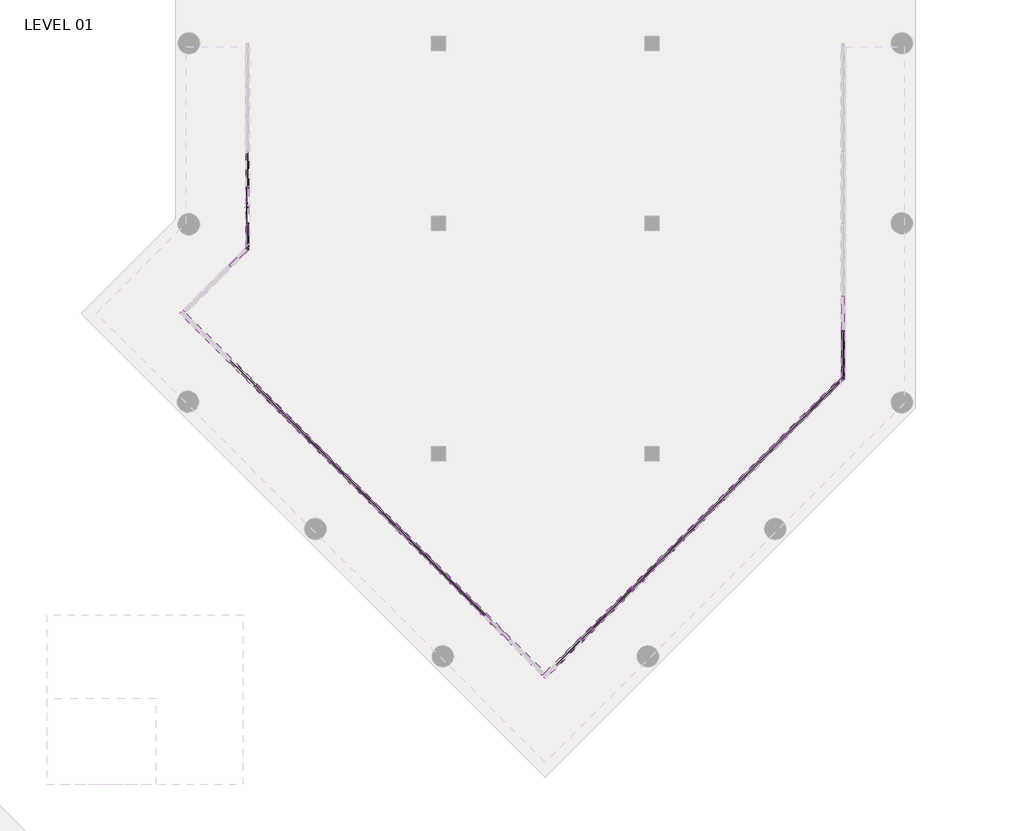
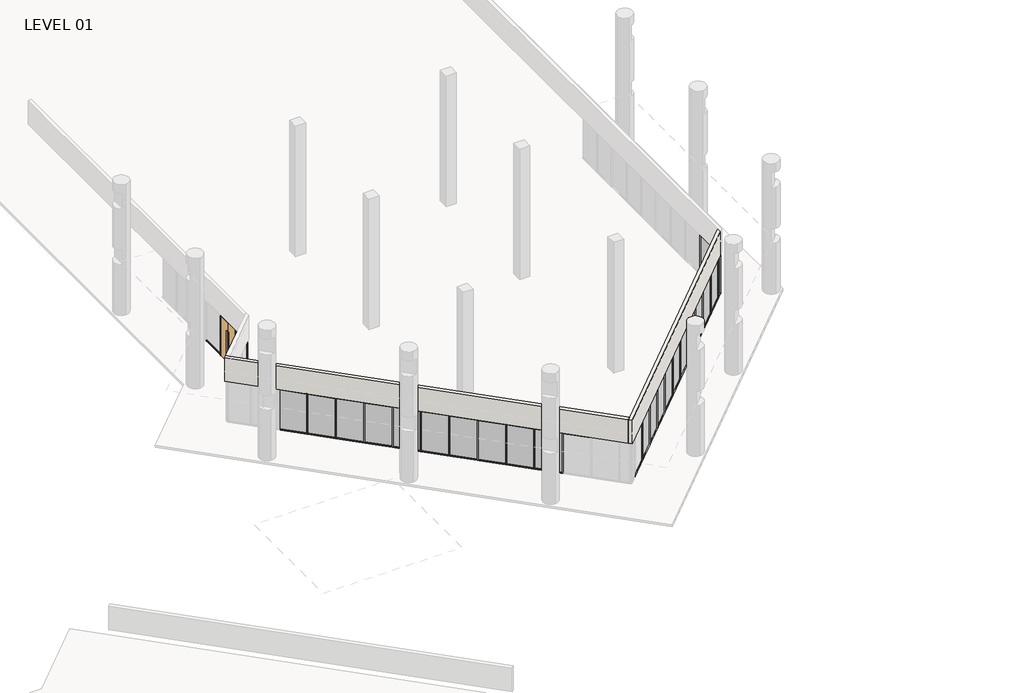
# One storey, part 9 of 24: 82 members, 24 plates, 2 walls, 1 door.
"""IFC4 building model written with IfcOpenShell, lengths in millimetres."""

from ifc_helpers import new_model, si_unit, origin, place, context, project, spatial, faceted_brep, transform, mapped, element, save
from components import curtain_wall_dbl_glass_curtain_wall_dbl_glass_dc526c47, member_16770488, member_ed5eb8ce, member_5247f267, member_e44af9ab, member_800970d4, member_1d3a199d, member_57f2eb73, plate_ce959b8d, plate_67294edd, plate_8062c6fe, plate_53ca565f, plate_87d7c655

model = new_model("IFC4")

# Units and contexts
model_context = context("Model", 3, world=origin())
ifc_project = project(units=[si_unit("LENGTHUNIT", "METRE", prefix="MILLI")], contexts=[model_context])

# Site, building, storey
site = spatial("IfcSite", under=ifc_project)
building = spatial("IfcBuilding", under=site)
storey = spatial("IfcBuildingStorey", under=building, Name="LEVEL 01", Elevation=0.0)

# Door
placement = place(None, origin())
curtain_wall_dbl_glass_curtain_wall_dbl_glass_shape = curtain_wall_dbl_glass_curtain_wall_dbl_glass_dc526c47(model_context)
element("IfcDoor", 1, ObjectType="Curtain Wall Dbl Glass : Curtain Wall Dbl Glass", at=placement, inside=storey, context=model_context, shape_type="MappedRepresentation", body=[
    mapped(curtain_wall_dbl_glass_curtain_wall_dbl_glass_shape, transform((64254.6347164, 46849.9675885, 0.0), x_axis=(0.0, 1.0, 0.0), y_axis=(-1.0, 0.0, 0.0), z_axis=(0.0, 0.0, 1.0))),
])

# Members
member_shape = member_16770488(model_context)
element("IfcMember", 2, ObjectType="Rectangular Mullion : 2\" x 4.5\" rectangular", at=placement, inside=storey, context=model_context, shape_type="MappedRepresentation", body=[
    mapped(member_shape, transform((89445.0847164, 39591.9120859, 2590.8), x_axis=(0.0, 0.0, 1.0), y_axis=(-1.0, 0.0, 0.0), z_axis=(0.0, -1.0, 0.0))),
])
member_2_shape = member_ed5eb8ce(model_context)
element("IfcMember", 3, ObjectType="Rectangular Mullion : 2\" x 4.5\" rectangular", at=placement, inside=storey, context=model_context, shape_type="MappedRepresentation", body=[
    mapped(member_2_shape, transform((64218.7136919, 44978.9020666, 2590.8), x_axis=(0.0, 0.0, 1.0), y_axis=(0.7071067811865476, -0.7071067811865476, 0.0), z_axis=(0.7071067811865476, 0.7071067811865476, 0.0))),
])
element("IfcMember", 4, ObjectType="Rectangular Mullion : 2\" x 4.5\" rectangular", at=placement, inside=storey, context=model_context, shape_type="MappedRepresentation", body=[
    mapped(member_2_shape, transform((64254.6347164, 46062.5675885, 2590.8), x_axis=(0.0, 0.0, 1.0), y_axis=(1.0, 0.0, 0.0), z_axis=(0.0, 1.0, 0.0))),
])
member_3_shape = member_5247f267(model_context)
element("IfcMember", 5, ObjectType="Rectangular Mullion : 2\" x 4.5\" rectangular", at=placement, inside=storey, context=model_context, shape_type="MappedRepresentation", body=[
    mapped(member_3_shape, transform((89445.0847164, 41541.3675885, 2590.8), x_axis=(0.0, 0.0, 1.0), y_axis=(-1.0, 0.0, 0.0), z_axis=(0.0, -1.0, 0.0))),
])
element("IfcMember", 6, ObjectType="Rectangular Mullion : 2\" x 4.5\" rectangular", at=placement, inside=storey, context=model_context, shape_type="MappedRepresentation", body=[
    mapped(member_3_shape, transform((86989.159449, 37085.1868185, 2590.8), x_axis=(0.0, 0.0, 1.0), y_axis=(-0.707106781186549, 0.7071067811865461, 0.0), z_axis=(-0.7071067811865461, -0.707106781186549, 0.0))),
])
element("IfcMember", 7, ObjectType="Rectangular Mullion : 2\" x 4.5\" rectangular", at=placement, inside=storey, context=model_context, shape_type="MappedRepresentation", body=[
    mapped(member_3_shape, transform((84833.8979799, 34929.9253495, 2590.8), x_axis=(0.0, 0.0, 1.0), y_axis=(-0.7071067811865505, 0.7071067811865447, 0.0), z_axis=(-0.7071067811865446, -0.7071067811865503, 0.0))),
])
element("IfcMember", 8, ObjectType="Rectangular Mullion : 2\" x 4.5\" rectangular", at=placement, inside=storey, context=model_context, shape_type="MappedRepresentation", body=[
    mapped(member_3_shape, transform((83756.2672454, 33852.2946149, 2590.8), x_axis=(0.0, 0.0, 1.0), y_axis=(-0.7071067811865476, 0.7071067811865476, 0.0), z_axis=(-0.7071067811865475, -0.7071067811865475, 0.0))),
])
element("IfcMember", 9, ObjectType="Rectangular Mullion : 2\" x 4.5\" rectangular", at=placement, inside=storey, context=model_context, shape_type="MappedRepresentation", body=[
    mapped(member_3_shape, transform((82678.6365109, 32774.6638804, 2590.8), x_axis=(0.0, 0.0, 1.0), y_axis=(-0.7071067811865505, 0.7071067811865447, 0.0), z_axis=(-0.7071067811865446, -0.7071067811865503, 0.0))),
])
element("IfcMember", 10, ObjectType="Rectangular Mullion : 2\" x 4.5\" rectangular", at=placement, inside=storey, context=model_context, shape_type="MappedRepresentation", body=[
    mapped(member_3_shape, transform((80523.3750418, 30619.4024113, 2590.8), x_axis=(0.0, 0.0, 1.0), y_axis=(-0.7071067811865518, 0.7071067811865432, 0.0), z_axis=(-0.7071067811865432, -0.7071067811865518, 0.0))),
])
element("IfcMember", 11, ObjectType="Rectangular Mullion : 2\" x 4.5\" rectangular", at=placement, inside=storey, context=model_context, shape_type="MappedRepresentation", body=[
    mapped(member_3_shape, transform((79445.7443073, 29541.7716768, 2590.8), x_axis=(0.0, 0.0, 1.0), y_axis=(-0.7071067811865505, 0.7071067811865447, 0.0), z_axis=(-0.7071067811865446, -0.7071067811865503, 0.0))),
])
element("IfcMember", 12, ObjectType="Rectangular Mullion : 2\" x 4.5\" rectangular", at=placement, inside=storey, context=model_context, shape_type="MappedRepresentation", body=[
    mapped(member_3_shape, transform((73212.0867428, 30583.6600595, 2590.8), x_axis=(0.0, 0.0, 1.0), y_axis=(0.7071067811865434, 0.7071067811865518, 0.0), z_axis=(-0.7071067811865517, 0.7071067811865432, 0.0))),
])
element("IfcMember", 13, ObjectType="Rectangular Mullion : 2\" x 4.5\" rectangular", at=placement, inside=storey, context=model_context, shape_type="MappedRepresentation", body=[
    mapped(member_3_shape, transform((71056.8252738, 32738.9215286, 2590.8), x_axis=(0.0, 0.0, 1.0), y_axis=(0.7071067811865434, 0.7071067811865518, 0.0), z_axis=(-0.7071067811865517, 0.7071067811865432, 0.0))),
])
element("IfcMember", 14, ObjectType="Rectangular Mullion : 2\" x 4.5\" rectangular", at=placement, inside=storey, context=model_context, shape_type="MappedRepresentation", body=[
    mapped(member_3_shape, transform((66746.6596809, 37049.0871214, 2590.8), x_axis=(0.0, 0.0, 1.0), y_axis=(0.7071067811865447, 0.7071067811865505, 0.0), z_axis=(-0.7071067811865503, 0.7071067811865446, 0.0))),
])
element("IfcMember", 15, ObjectType="Rectangular Mullion : 2\" x 4.5\" rectangular", at=placement, inside=storey, context=model_context, shape_type="MappedRepresentation", body=[
    mapped(member_3_shape, transform((64591.3982119, 39204.3485904, 2590.8), x_axis=(0.0, 0.0, 1.0), y_axis=(0.7071067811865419, 0.7071067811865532, 0.0), z_axis=(-0.7071067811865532, 0.7071067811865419, 0.0))),
])
element("IfcMember", 16, ObjectType="Rectangular Mullion : 2\" x 4.5\" rectangular", at=placement, inside=storey, context=model_context, shape_type="MappedRepresentation", body=[
    mapped(member_3_shape, transform((89445.0847164, 40017.3675885, 2590.8), x_axis=(0.0, 0.0, 1.0), y_axis=(-1.0, 0.0, 0.0), z_axis=(0.0, -1.0, 0.0))),
])
element("IfcMember", 17, ObjectType="Rectangular Mullion : 2\" x 4.5\" rectangular", at=placement, inside=storey, context=model_context, shape_type="MappedRepresentation", body=[
    mapped(member_3_shape, transform((78368.1135728, 28464.1409423, 2590.8), x_axis=(0.0, 0.0, 1.0), y_axis=(-0.7071067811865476, 0.7071067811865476, 0.0), z_axis=(-0.7071067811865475, -0.7071067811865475, 0.0))),
])
element("IfcMember", 18, ObjectType="Rectangular Mullion : 2\" x 4.5\" rectangular", at=placement, inside=storey, context=model_context, shape_type="MappedRepresentation", body=[
    mapped(member_3_shape, transform((81601.0057764, 31697.0331459, 2590.8), x_axis=(0.0, 0.0, 1.0), y_axis=(-0.707106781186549, 0.7071067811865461, 0.0), z_axis=(-0.7071067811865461, -0.707106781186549, 0.0))),
])
element("IfcMember", 19, ObjectType="Rectangular Mullion : 2\" x 4.5\" rectangular", at=placement, inside=storey, context=model_context, shape_type="MappedRepresentation", body=[
    mapped(member_3_shape, transform((85911.5287145, 36007.556084, 2590.8), x_axis=(0.0, 0.0, 1.0), y_axis=(-0.7071067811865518, 0.7071067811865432, 0.0), z_axis=(-0.7071067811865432, -0.7071067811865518, 0.0))),
])
element("IfcMember", 20, ObjectType="Rectangular Mullion : 2\" x 4.5\" rectangular", at=placement, inside=storey, context=model_context, shape_type="MappedRepresentation", body=[
    mapped(member_3_shape, transform((88066.7901835, 38162.817553, 2590.8), x_axis=(0.0, 0.0, 1.0), y_axis=(-0.7071067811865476, 0.7071067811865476, 0.0), z_axis=(-0.7071067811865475, -0.7071067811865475, 0.0))),
])
element("IfcMember", 21, ObjectType="Rectangular Mullion : 2\" x 4.5\" rectangular", at=placement, inside=storey, context=model_context, shape_type="MappedRepresentation", body=[
    mapped(member_3_shape, transform((74289.7174773, 29506.029325, 2590.8), x_axis=(0.0, 0.0, 1.0), y_axis=(0.7071067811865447, 0.7071067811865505, 0.0), z_axis=(-0.7071067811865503, 0.7071067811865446, 0.0))),
])
element("IfcMember", 22, ObjectType="Rectangular Mullion : 2\" x 4.5\" rectangular", at=placement, inside=storey, context=model_context, shape_type="MappedRepresentation", body=[
    mapped(member_3_shape, transform((72134.4560083, 31661.290794, 2590.8), x_axis=(0.0, 0.0, 1.0), y_axis=(0.7071067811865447, 0.7071067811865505, 0.0), z_axis=(-0.7071067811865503, 0.7071067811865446, 0.0))),
])
element("IfcMember", 23, ObjectType="Rectangular Mullion : 2\" x 4.5\" rectangular", at=placement, inside=storey, context=model_context, shape_type="MappedRepresentation", body=[
    mapped(member_3_shape, transform((69979.1945392, 33816.5522631, 2590.8), x_axis=(0.0, 0.0, 1.0), y_axis=(0.7071067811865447, 0.7071067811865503, 0.0), z_axis=(-0.7071067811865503, 0.7071067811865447, 0.0))),
])
element("IfcMember", 24, ObjectType="Rectangular Mullion : 2\" x 4.5\" rectangular", at=placement, inside=storey, context=model_context, shape_type="MappedRepresentation", body=[
    mapped(member_3_shape, transform((67824.2904155, 35971.4563869, 2590.8), x_axis=(0.0, 0.0, 1.0), y_axis=(0.7071067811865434, 0.7071067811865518, 0.0), z_axis=(-0.7071067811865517, 0.7071067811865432, 0.0))),
])
element("IfcMember", 25, ObjectType="Rectangular Mullion : 2\" x 4.5\" rectangular", at=placement, inside=storey, context=model_context, shape_type="MappedRepresentation", body=[
    mapped(member_3_shape, transform((65669.0289464, 38126.7178559, 2590.8), x_axis=(0.0, 0.0, 1.0), y_axis=(0.7071067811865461, 0.7071067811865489, 0.0), z_axis=(-0.7071067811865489, 0.7071067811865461, 0.0))),
])
element("IfcMember", 26, ObjectType="Rectangular Mullion : 2\" x 4.5\" rectangular", at=placement, inside=storey, context=model_context, shape_type="MappedRepresentation", body=[
    mapped(member_3_shape, transform((64254.6347164, 47586.5675885, 2590.8), x_axis=(0.0, 0.0, 1.0), y_axis=(1.0, 0.0, 0.0), z_axis=(0.0, 1.0, 0.0))),
])
element("IfcMember", 27, ObjectType="Rectangular Mullion : 2\" x 4.5\" rectangular", at=placement, inside=storey, context=model_context, shape_type="MappedRepresentation", body=[
    mapped(member_2_shape, transform((64254.6347164, 45065.6230911, 0.0), x_axis=(0.0, 0.0, -1.0), y_axis=(1.0, 0.0, 0.0), z_axis=(0.0, -1.0, 0.0))),
])
element("IfcMember", 28, ObjectType="Rectangular Mullion : 2\" x 4.5\" rectangular", at=placement, inside=storey, context=model_context, shape_type="MappedRepresentation", body=[
    mapped(member_3_shape, transform((89445.0847164, 41490.5675885, 0.0), x_axis=(0.0, 0.0, -1.0), y_axis=(-1.0, 0.0, 0.0), z_axis=(0.0, 1.0, 0.0))),
])
element("IfcMember", 29, ObjectType="Rectangular Mullion : 2\" x 4.5\" rectangular", at=placement, inside=storey, context=model_context, shape_type="MappedRepresentation", body=[
    mapped(member_3_shape, transform((86953.2384245, 37049.265794, 0.0), x_axis=(0.0, 0.0, -1.0), y_axis=(-0.7071067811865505, 0.7071067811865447, 0.0), z_axis=(0.7071067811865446, 0.7071067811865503, 0.0))),
])
element("IfcMember", 30, ObjectType="Rectangular Mullion : 2\" x 4.5\" rectangular", at=placement, inside=storey, context=model_context, shape_type="MappedRepresentation", body=[
    mapped(member_3_shape, transform((84797.9769555, 34894.004325, 0.0), x_axis=(0.0, 0.0, -1.0), y_axis=(-0.7071067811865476, 0.7071067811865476, 0.0), z_axis=(0.7071067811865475, 0.7071067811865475, 0.0))),
])
element("IfcMember", 31, ObjectType="Rectangular Mullion : 2\" x 4.5\" rectangular", at=placement, inside=storey, context=model_context, shape_type="MappedRepresentation", body=[
    mapped(member_3_shape, transform((83720.3462209, 33816.3735904, 0.0), x_axis=(0.0, 0.0, -1.0), y_axis=(-0.7071067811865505, 0.7071067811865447, 0.0), z_axis=(0.7071067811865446, 0.7071067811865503, 0.0))),
])
element("IfcMember", 32, ObjectType="Rectangular Mullion : 2\" x 4.5\" rectangular", at=placement, inside=storey, context=model_context, shape_type="MappedRepresentation", body=[
    mapped(member_3_shape, transform((82642.7154864, 32738.7428559, 0.0), x_axis=(0.0, 0.0, -1.0), y_axis=(-0.7071067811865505, 0.7071067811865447, 0.0), z_axis=(0.7071067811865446, 0.7071067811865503, 0.0))),
])
element("IfcMember", 33, ObjectType="Rectangular Mullion : 2\" x 4.5\" rectangular", at=placement, inside=storey, context=model_context, shape_type="MappedRepresentation", body=[
    mapped(member_3_shape, transform((80487.4540173, 30583.4813869, 0.0), x_axis=(0.0, 0.0, -1.0), y_axis=(-0.7071067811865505, 0.7071067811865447, 0.0), z_axis=(0.7071067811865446, 0.7071067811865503, 0.0))),
])
element("IfcMember", 34, ObjectType="Rectangular Mullion : 2\" x 4.5\" rectangular", at=placement, inside=storey, context=model_context, shape_type="MappedRepresentation", body=[
    mapped(member_3_shape, transform((79409.8232828, 29505.8506523, 0.0), x_axis=(0.0, 0.0, -1.0), y_axis=(-0.7071067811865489, 0.7071067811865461, 0.0), z_axis=(0.7071067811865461, 0.7071067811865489, 0.0))),
])
element("IfcMember", 35, ObjectType="Rectangular Mullion : 2\" x 4.5\" rectangular", at=placement, inside=storey, context=model_context, shape_type="MappedRepresentation", body=[
    mapped(member_3_shape, transform((73176.1657183, 30619.581084, 0.0), x_axis=(0.0, 0.0, -1.0), y_axis=(0.7071067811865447, 0.7071067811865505, 0.0), z_axis=(0.7071067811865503, -0.7071067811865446, 0.0))),
])
element("IfcMember", 36, ObjectType="Rectangular Mullion : 2\" x 4.5\" rectangular", at=placement, inside=storey, context=model_context, shape_type="MappedRepresentation", body=[
    mapped(member_3_shape, transform((71020.9042493, 32774.842553, 0.0), x_axis=(0.0, 0.0, -1.0), y_axis=(0.7071067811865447, 0.7071067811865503, 0.0), z_axis=(0.7071067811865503, -0.7071067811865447, 0.0))),
])
element("IfcMember", 37, ObjectType="Rectangular Mullion : 2\" x 4.5\" rectangular", at=placement, inside=storey, context=model_context, shape_type="MappedRepresentation", body=[
    mapped(member_3_shape, transform((68866.0001255, 34929.7466768, 0.0), x_axis=(0.0, 0.0, -1.0), y_axis=(0.7071067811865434, 0.7071067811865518, 0.0), z_axis=(0.7071067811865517, -0.7071067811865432, 0.0))),
])
element("IfcMember", 38, ObjectType="Rectangular Mullion : 2\" x 4.5\" rectangular", at=placement, inside=storey, context=model_context, shape_type="MappedRepresentation", body=[
    mapped(member_3_shape, transform((66710.7386564, 37085.0081459, 0.0), x_axis=(0.0, 0.0, -1.0), y_axis=(0.7071067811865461, 0.7071067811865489, 0.0), z_axis=(0.7071067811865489, -0.7071067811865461, 0.0))),
])
element("IfcMember", 39, ObjectType="Rectangular Mullion : 2\" x 4.5\" rectangular", at=placement, inside=storey, context=model_context, shape_type="MappedRepresentation", body=[
    mapped(member_3_shape, transform((64555.4771874, 39240.2696149, 0.0), x_axis=(0.0, 0.0, -1.0), y_axis=(0.7071067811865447, 0.7071067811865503, 0.0), z_axis=(0.7071067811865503, -0.7071067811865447, 0.0))),
])
element("IfcMember", 40, ObjectType="Rectangular Mullion : 2\" x 4.5\" rectangular", at=placement, inside=storey, context=model_context, shape_type="MappedRepresentation", body=[
    mapped(member_3_shape, transform((78332.1925483, 28428.2199178, 0.0), x_axis=(0.0, 0.0, -1.0), y_axis=(-0.707106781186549, 0.7071067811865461, 0.0), z_axis=(0.7071067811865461, 0.707106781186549, 0.0))),
])
element("IfcMember", 41, ObjectType="Rectangular Mullion : 2\" x 4.5\" rectangular", at=placement, inside=storey, context=model_context, shape_type="MappedRepresentation", body=[
    mapped(member_3_shape, transform((81565.0847519, 31661.1121214, 0.0), x_axis=(0.0, 0.0, -1.0), y_axis=(-0.7071067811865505, 0.7071067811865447, 0.0), z_axis=(0.7071067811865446, 0.7071067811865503, 0.0))),
])
element("IfcMember", 42, ObjectType="Rectangular Mullion : 2\" x 4.5\" rectangular", at=placement, inside=storey, context=model_context, shape_type="MappedRepresentation", body=[
    mapped(member_3_shape, transform((85875.60769, 35971.6350595, 0.0), x_axis=(0.0, 0.0, -1.0), y_axis=(-0.7071067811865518, 0.7071067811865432, 0.0), z_axis=(0.7071067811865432, 0.7071067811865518, 0.0))),
])
element("IfcMember", 43, ObjectType="Rectangular Mullion : 2\" x 4.5\" rectangular", at=placement, inside=storey, context=model_context, shape_type="MappedRepresentation", body=[
    mapped(member_3_shape, transform((88030.869159, 38126.8965286, 0.0), x_axis=(0.0, 0.0, -1.0), y_axis=(-0.707106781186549, 0.7071067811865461, 0.0), z_axis=(0.7071067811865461, 0.707106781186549, 0.0))),
])
element("IfcMember", 44, ObjectType="Rectangular Mullion : 2\" x 4.5\" rectangular", at=placement, inside=storey, context=model_context, shape_type="MappedRepresentation", body=[
    mapped(member_3_shape, transform((89108.4998936, 39204.5272631, 0.0), x_axis=(0.0, 0.0, -1.0), y_axis=(-0.7071067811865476, 0.7071067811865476, 0.0), z_axis=(0.7071067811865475, 0.7071067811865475, 0.0))),
])
element("IfcMember", 45, ObjectType="Rectangular Mullion : 2\" x 4.5\" rectangular", at=placement, inside=storey, context=model_context, shape_type="MappedRepresentation", body=[
    mapped(member_3_shape, transform((74253.7964529, 29541.9503495, 0.0), x_axis=(0.0, 0.0, -1.0), y_axis=(0.7071067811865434, 0.7071067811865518, 0.0), z_axis=(0.7071067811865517, -0.7071067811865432, 0.0))),
])
element("IfcMember", 46, ObjectType="Rectangular Mullion : 2\" x 4.5\" rectangular", at=placement, inside=storey, context=model_context, shape_type="MappedRepresentation", body=[
    mapped(member_3_shape, transform((72098.5349838, 31697.2118185, 0.0), x_axis=(0.0, 0.0, -1.0), y_axis=(0.7071067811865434, 0.7071067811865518, 0.0), z_axis=(0.7071067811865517, -0.7071067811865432, 0.0))),
])
element("IfcMember", 47, ObjectType="Rectangular Mullion : 2\" x 4.5\" rectangular", at=placement, inside=storey, context=model_context, shape_type="MappedRepresentation", body=[
    mapped(member_3_shape, transform((67788.369391, 36007.3774113, 0.0), x_axis=(0.0, 0.0, -1.0), y_axis=(0.7071067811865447, 0.7071067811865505, 0.0), z_axis=(0.7071067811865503, -0.7071067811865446, 0.0))),
])
element("IfcMember", 48, ObjectType="Rectangular Mullion : 2\" x 4.5\" rectangular", at=placement, inside=storey, context=model_context, shape_type="MappedRepresentation", body=[
    mapped(member_3_shape, transform((65633.1079219, 38162.6388804, 0.0), x_axis=(0.0, 0.0, -1.0), y_axis=(0.7071067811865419, 0.7071067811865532, 0.0), z_axis=(0.7071067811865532, -0.7071067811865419, 0.0))),
])
element("IfcMember", 49, ObjectType="Rectangular Mullion : 2\" x 4.5\" rectangular", at=placement, inside=storey, context=model_context, shape_type="MappedRepresentation", body=[
    mapped(member_3_shape, transform((64254.6347164, 47637.3675885, 0.0), x_axis=(0.0, 0.0, -1.0), y_axis=(1.0, 0.0, 0.0), z_axis=(0.0, -1.0, 0.0))),
])
member_4_shape = member_e44af9ab(model_context)
element("IfcMember", 50, ObjectType="Rectangular Mullion : 2\" x 4.5\" rectangular", at=placement, inside=storey, context=model_context, shape_type="MappedRepresentation", body=[
    mapped(member_4_shape, transform((89445.0847164, 41515.9675885, 0.0), x_axis=(0.0, -1.0, 0.0), y_axis=(-1.0, 0.0, 0.0), z_axis=(0.0, 0.0, -1.0))),
])
element("IfcMember", 51, ObjectType="Rectangular Mullion : 2\" x 4.5\" rectangular", at=placement, inside=storey, context=model_context, shape_type="MappedRepresentation", body=[
    mapped(member_4_shape, transform((86971.1989368, 37067.2263063, 0.0), x_axis=(-0.7071067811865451, -0.7071067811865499, 0.0), y_axis=(-0.7071067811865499, 0.7071067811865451, 0.0), z_axis=(0.0, 0.0, -1.0))),
])
element("IfcMember", 52, ObjectType="Rectangular Mullion : 2\" x 4.5\" rectangular", at=placement, inside=storey, context=model_context, shape_type="MappedRepresentation", body=[
    mapped(member_4_shape, transform((84815.9374677, 34911.9648372, 0.0), x_axis=(-0.7071067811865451, -0.7071067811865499, 0.0), y_axis=(-0.7071067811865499, 0.7071067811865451, 0.0), z_axis=(0.0, 0.0, -1.0))),
])
element("IfcMember", 53, ObjectType="Rectangular Mullion : 2\" x 4.5\" rectangular", at=placement, inside=storey, context=model_context, shape_type="MappedRepresentation", body=[
    mapped(member_4_shape, transform((83738.3067332, 33834.3341027, 0.0), x_axis=(-0.7071067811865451, -0.7071067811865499, 0.0), y_axis=(-0.7071067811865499, 0.7071067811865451, 0.0), z_axis=(0.0, 0.0, -1.0))),
])
element("IfcMember", 54, ObjectType="Rectangular Mullion : 2\" x 4.5\" rectangular", at=placement, inside=storey, context=model_context, shape_type="MappedRepresentation", body=[
    mapped(member_4_shape, transform((82660.6759986, 32756.7033682, 0.0), x_axis=(-0.7071067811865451, -0.7071067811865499, 0.0), y_axis=(-0.7071067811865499, 0.7071067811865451, 0.0), z_axis=(0.0, 0.0, -1.0))),
])
element("IfcMember", 55, ObjectType="Rectangular Mullion : 2\" x 4.5\" rectangular", at=placement, inside=storey, context=model_context, shape_type="MappedRepresentation", body=[
    mapped(member_4_shape, transform((80505.4145296, 30601.4418991, 0.0), x_axis=(-0.7071067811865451, -0.7071067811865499, 0.0), y_axis=(-0.7071067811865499, 0.7071067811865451, 0.0), z_axis=(0.0, 0.0, -1.0))),
])
element("IfcMember", 56, ObjectType="Rectangular Mullion : 2\" x 4.5\" rectangular", at=placement, inside=storey, context=model_context, shape_type="MappedRepresentation", body=[
    mapped(member_4_shape, transform((79427.7837951, 29523.8111646, 0.0), x_axis=(-0.7071067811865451, -0.7071067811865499, 0.0), y_axis=(-0.7071067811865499, 0.7071067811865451, 0.0), z_axis=(0.0, 0.0, -1.0))),
])
element("IfcMember", 57, ObjectType="Rectangular Mullion : 2\" x 4.5\" rectangular", at=placement, inside=storey, context=model_context, shape_type="MappedRepresentation", body=[
    mapped(member_4_shape, transform((73194.1262306, 30601.6205717, 0.0), x_axis=(-0.7071067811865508, 0.7071067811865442, 0.0), y_axis=(0.7071067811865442, 0.7071067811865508, 0.0), z_axis=(0.0, 0.0, -1.0))),
])
element("IfcMember", 58, ObjectType="Rectangular Mullion : 2\" x 4.5\" rectangular", at=placement, inside=storey, context=model_context, shape_type="MappedRepresentation", body=[
    mapped(member_4_shape, transform((71038.8647615, 32756.8820408, 0.0), x_axis=(-0.7071067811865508, 0.7071067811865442, 0.0), y_axis=(0.7071067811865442, 0.7071067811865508, 0.0), z_axis=(0.0, 0.0, -1.0))),
])
element("IfcMember", 59, ObjectType="Rectangular Mullion : 2\" x 4.5\" rectangular", at=placement, inside=storey, context=model_context, shape_type="MappedRepresentation", body=[
    mapped(member_4_shape, transform((68883.9606377, 34911.7861646, 0.0), x_axis=(-0.7071067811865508, 0.7071067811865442, 0.0), y_axis=(0.7071067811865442, 0.7071067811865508, 0.0), z_axis=(0.0, 0.0, -1.0))),
])
element("IfcMember", 60, ObjectType="Rectangular Mullion : 2\" x 4.5\" rectangular", at=placement, inside=storey, context=model_context, shape_type="MappedRepresentation", body=[
    mapped(member_4_shape, transform((66728.6991687, 37067.0476336, 0.0), x_axis=(-0.7071067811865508, 0.7071067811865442, 0.0), y_axis=(0.7071067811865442, 0.7071067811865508, 0.0), z_axis=(0.0, 0.0, -1.0))),
])
element("IfcMember", 61, ObjectType="Rectangular Mullion : 2\" x 4.5\" rectangular", at=placement, inside=storey, context=model_context, shape_type="MappedRepresentation", body=[
    mapped(member_4_shape, transform((64573.4376996, 39222.3091027, 0.0), x_axis=(-0.7071067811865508, 0.7071067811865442, 0.0), y_axis=(0.7071067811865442, 0.7071067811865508, 0.0), z_axis=(0.0, 0.0, -1.0))),
])
element("IfcMember", 62, ObjectType="Rectangular Mullion : 2\" x 4.5\" rectangular", at=placement, inside=storey, context=model_context, shape_type="MappedRepresentation", body=[
    mapped(member_4_shape, transform((89445.0847164, 39991.9675885, 0.0), x_axis=(0.0, -1.0, 0.0), y_axis=(-1.0, 0.0, 0.0), z_axis=(0.0, 0.0, -1.0))),
])
element("IfcMember", 63, ObjectType="Rectangular Mullion : 2\" x 4.5\" rectangular", at=placement, inside=storey, context=model_context, shape_type="MappedRepresentation", body=[
    mapped(member_4_shape, transform((78350.1530605, 28446.18043, 0.0), x_axis=(-0.7071067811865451, -0.7071067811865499, 0.0), y_axis=(-0.7071067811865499, 0.7071067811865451, 0.0), z_axis=(0.0, 0.0, -1.0))),
])
element("IfcMember", 64, ObjectType="Rectangular Mullion : 2\" x 4.5\" rectangular", at=placement, inside=storey, context=model_context, shape_type="MappedRepresentation", body=[
    mapped(member_4_shape, transform((81583.0452641, 31679.0726336, 0.0), x_axis=(-0.7071067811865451, -0.7071067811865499, 0.0), y_axis=(-0.7071067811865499, 0.7071067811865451, 0.0), z_axis=(0.0, 0.0, -1.0))),
])
element("IfcMember", 65, ObjectType="Rectangular Mullion : 2\" x 4.5\" rectangular", at=placement, inside=storey, context=model_context, shape_type="MappedRepresentation", body=[
    mapped(member_4_shape, transform((85893.5682022, 35989.5955717, 0.0), x_axis=(-0.7071067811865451, -0.7071067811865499, 0.0), y_axis=(-0.7071067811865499, 0.7071067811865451, 0.0), z_axis=(0.0, 0.0, -1.0))),
])
element("IfcMember", 66, ObjectType="Rectangular Mullion : 2\" x 4.5\" rectangular", at=placement, inside=storey, context=model_context, shape_type="MappedRepresentation", body=[
    mapped(member_4_shape, transform((88048.8296713, 38144.8570408, 0.0), x_axis=(-0.7071067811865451, -0.7071067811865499, 0.0), y_axis=(-0.7071067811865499, 0.7071067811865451, 0.0), z_axis=(0.0, 0.0, -1.0))),
])
element("IfcMember", 67, ObjectType="Rectangular Mullion : 2\" x 4.5\" rectangular", at=placement, inside=storey, context=model_context, shape_type="MappedRepresentation", body=[
    mapped(member_4_shape, transform((89126.4604058, 39222.4877753, 0.0), x_axis=(-0.7071067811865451, -0.7071067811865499, 0.0), y_axis=(-0.7071067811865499, 0.7071067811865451, 0.0), z_axis=(0.0, 0.0, -1.0))),
])
element("IfcMember", 68, ObjectType="Rectangular Mullion : 2\" x 4.5\" rectangular", at=placement, inside=storey, context=model_context, shape_type="MappedRepresentation", body=[
    mapped(member_4_shape, transform((74271.7569651, 29523.9898372, 0.0), x_axis=(-0.7071067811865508, 0.7071067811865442, 0.0), y_axis=(0.7071067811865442, 0.7071067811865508, 0.0), z_axis=(0.0, 0.0, -1.0))),
])
element("IfcMember", 69, ObjectType="Rectangular Mullion : 2\" x 4.5\" rectangular", at=placement, inside=storey, context=model_context, shape_type="MappedRepresentation", body=[
    mapped(member_4_shape, transform((72116.495496, 31679.2513063, 0.0), x_axis=(-0.7071067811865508, 0.7071067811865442, 0.0), y_axis=(0.7071067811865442, 0.7071067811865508, 0.0), z_axis=(0.0, 0.0, -1.0))),
])
element("IfcMember", 70, ObjectType="Rectangular Mullion : 2\" x 4.5\" rectangular", at=placement, inside=storey, context=model_context, shape_type="MappedRepresentation", body=[
    mapped(member_4_shape, transform((69961.234027, 33834.5127753, 0.0), x_axis=(-0.7071067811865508, 0.7071067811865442, 0.0), y_axis=(0.7071067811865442, 0.7071067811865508, 0.0), z_axis=(0.0, 0.0, -1.0))),
])
element("IfcMember", 71, ObjectType="Rectangular Mullion : 2\" x 4.5\" rectangular", at=placement, inside=storey, context=model_context, shape_type="MappedRepresentation", body=[
    mapped(member_4_shape, transform((67806.3299032, 35989.4168991, 0.0), x_axis=(-0.7071067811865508, 0.7071067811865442, 0.0), y_axis=(0.7071067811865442, 0.7071067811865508, 0.0), z_axis=(0.0, 0.0, -1.0))),
])
element("IfcMember", 72, ObjectType="Rectangular Mullion : 2\" x 4.5\" rectangular", at=placement, inside=storey, context=model_context, shape_type="MappedRepresentation", body=[
    mapped(member_4_shape, transform((65651.0684342, 38144.6783682, 0.0), x_axis=(-0.7071067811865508, 0.7071067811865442, 0.0), y_axis=(0.7071067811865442, 0.7071067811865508, 0.0), z_axis=(0.0, 0.0, -1.0))),
])
element("IfcMember", 73, ObjectType="Rectangular Mullion : 2\" x 4.5\" rectangular", at=placement, inside=storey, context=model_context, shape_type="MappedRepresentation", body=[
    mapped(member_4_shape, transform((64254.6347164, 46087.9675885, 0.0), x_axis=(0.0, 1.0, 0.0), y_axis=(1.0, 0.0, 0.0), z_axis=(0.0, 0.0, -1.0))),
])
element("IfcMember", 74, ObjectType="Rectangular Mullion : 2\" x 4.5\" rectangular", at=placement, inside=storey, context=model_context, shape_type="MappedRepresentation", body=[
    mapped(member_4_shape, transform((64254.6347164, 47611.9675885, 0.0), x_axis=(0.0, 1.0, 0.0), y_axis=(1.0, 0.0, 0.0), z_axis=(0.0, 0.0, -1.0))),
])
element("IfcMember", 75, ObjectType="Rectangular Mullion : 2\" x 4.5\" rectangular", at=placement, inside=storey, context=model_context, shape_type="MappedRepresentation", body=[
    mapped(member_shape, transform((89445.0847164, 39966.5675885, 0.0), x_axis=(0.0, 0.0, -1.0), y_axis=(-1.0, 0.0, 0.0), z_axis=(0.0, 1.0, 0.0))),
])
member_5_shape = member_800970d4(model_context)
element("IfcMember", 76, ObjectType="Rectangular Mullion : 2\" x 4.5\" rectangular", at=placement, inside=storey, context=model_context, shape_type="MappedRepresentation", body=[
    mapped(member_5_shape, transform((89445.0847164, 39541.1120859, 0.0), x_axis=(0.0, -1.0, 0.0), y_axis=(-1.0, 0.0, 0.0), z_axis=(0.0, 0.0, -1.0))),
])
element("IfcMember", 77, ObjectType="Rectangular Mullion : 2\" x 4.5\" rectangular", at=placement, inside=storey, context=model_context, shape_type="MappedRepresentation", body=[
    mapped(member_5_shape, transform((64254.6347164, 45014.8230911, 0.0), x_axis=(0.7071067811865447, 0.7071067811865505, 0.0), y_axis=(0.7071067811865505, -0.7071067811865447, 0.0), z_axis=(0.0, 0.0, -1.0))),
])
element("IfcMember", 78, ObjectType="Rectangular Mullion : 2\" x 4.5\" rectangular", at=placement, inside=storey, context=model_context, shape_type="MappedRepresentation", body=[
    mapped(member_5_shape, transform((89445.0847164, 39541.1120859, 2590.8), x_axis=(0.7071067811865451, 0.7071067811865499, 0.0), y_axis=(-0.7071067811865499, 0.7071067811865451, 0.0), z_axis=(0.0, 0.0, 1.0))),
])
element("IfcMember", 79, ObjectType="Rectangular Mullion : 2\" x 4.5\" rectangular", at=placement, inside=storey, context=model_context, shape_type="MappedRepresentation", body=[
    mapped(member_5_shape, transform((64254.6347164, 45014.8230911, 2590.8), x_axis=(0.0, -1.0, 0.0), y_axis=(1.0, 0.0, 0.0), z_axis=(0.0, 0.0, 1.0))),
])
member_6_shape = member_1d3a199d(model_context)
element("IfcMember", 80, ObjectType="Rectangular Mullion : 2\" x 4.5\" rectangular", at=placement, inside=storey, context=model_context, shape_type="MappedRepresentation", body=[
    mapped(member_6_shape, transform((89409.1636919, 39505.1910614, 0.0), x_axis=(0.0, 0.0, -1.0), y_axis=(-0.7071067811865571, 0.7071067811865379, 0.0), z_axis=(0.7071067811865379, 0.7071067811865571, 0.0))),
])
element("IfcMember", 81, ObjectType="Rectangular Mullion : 2\" x 4.5\" rectangular", at=placement, inside=storey, context=model_context, shape_type="MappedRepresentation", body=[
    mapped(member_6_shape, transform((89144.4209181, 39240.4482876, 2590.8), x_axis=(0.0, 0.0, 1.0), y_axis=(-0.7071067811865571, 0.7071067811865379, 0.0), z_axis=(-0.7071067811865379, -0.7071067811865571, 0.0))),
])
member_7_shape = member_57f2eb73(model_context)
element("IfcMember", 82, ObjectType="Rectangular Mullion : 2\" x 4.5\" rectangular", at=placement, inside=storey, context=model_context, shape_type="MappedRepresentation", body=[
    mapped(member_7_shape, transform((68901.92115, 34893.8256523, 2590.8), x_axis=(0.0, 0.0, 1.0), y_axis=(0.7071067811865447, 0.7071067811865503, 0.0), z_axis=(-0.7071067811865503, 0.7071067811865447, 0.0))),
])
element("IfcMember", 83, ObjectType="Rectangular Mullion : 2\" x 4.5\" rectangular", at=placement, inside=storey, context=model_context, shape_type="MappedRepresentation", body=[
    mapped(member_7_shape, transform((69943.2735147, 33852.4732876, 0.0), x_axis=(0.0, 0.0, -1.0), y_axis=(0.7071067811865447, 0.7071067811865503, 0.0), z_axis=(0.7071067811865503, -0.7071067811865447, 0.0))),
])

# Plates
plate_shape = plate_ce959b8d(model_context)
element("IfcPlate", 84, ObjectType="System Panel : 1/4\" Glass", at=placement, inside=storey, context=model_context, shape_type="MappedRepresentation", body=[
    mapped(plate_shape, transform((64254.6347164, 45564.0953398, 50.8), x_axis=(0.0, 1.0, 0.0), y_axis=(-1.0, 0.0, 0.0), z_axis=(0.0, 0.0, 1.0))),
])
plate_2_shape = plate_67294edd(model_context)
element("IfcPlate", 85, ObjectType="System Panel : 1/4\" Glass", at=placement, inside=storey, context=model_context, shape_type="MappedRepresentation", body=[
    mapped(plate_2_shape, transform((89445.0847164, 40753.9675885, 50.8), x_axis=(0.0, -1.0, 0.0), y_axis=(1.0, 0.0, 0.0), z_axis=(0.0, 0.0, 1.0))),
])
element("IfcPlate", 86, ObjectType="System Panel : 1/4\" Glass", at=placement, inside=storey, context=model_context, shape_type="MappedRepresentation", body=[
    mapped(plate_2_shape, transform((86432.3835695, 36528.410939, 50.8), x_axis=(-0.7071067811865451, -0.7071067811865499, 0.0), y_axis=(0.7071067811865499, -0.7071067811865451, 0.0), z_axis=(0.0, 0.0, 1.0))),
])
element("IfcPlate", 87, ObjectType="System Panel : 1/4\" Glass", at=placement, inside=storey, context=model_context, shape_type="MappedRepresentation", body=[
    mapped(plate_2_shape, transform((84277.1221004, 34373.14947, 50.8), x_axis=(-0.7071067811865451, -0.7071067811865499, 0.0), y_axis=(0.7071067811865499, -0.7071067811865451, 0.0), z_axis=(0.0, 0.0, 1.0))),
])
element("IfcPlate", 88, ObjectType="System Panel : 1/4\" Glass", at=placement, inside=storey, context=model_context, shape_type="MappedRepresentation", body=[
    mapped(plate_2_shape, transform((83199.4913659, 33295.5187354, 50.8), x_axis=(-0.7071067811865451, -0.7071067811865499, 0.0), y_axis=(0.7071067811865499, -0.7071067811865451, 0.0), z_axis=(0.0, 0.0, 1.0))),
])
element("IfcPlate", 89, ObjectType="System Panel : 1/4\" Glass", at=placement, inside=storey, context=model_context, shape_type="MappedRepresentation", body=[
    mapped(plate_2_shape, transform((82121.8606314, 32217.8880009, 50.8), x_axis=(-0.7071067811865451, -0.7071067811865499, 0.0), y_axis=(0.7071067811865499, -0.7071067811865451, 0.0), z_axis=(0.0, 0.0, 1.0))),
])
element("IfcPlate", 90, ObjectType="System Panel : 1/4\" Glass", at=placement, inside=storey, context=model_context, shape_type="MappedRepresentation", body=[
    mapped(plate_2_shape, transform((79966.5991623, 30062.6265318, 50.8), x_axis=(-0.7071067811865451, -0.7071067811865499, 0.0), y_axis=(0.7071067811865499, -0.7071067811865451, 0.0), z_axis=(0.0, 0.0, 1.0))),
])
element("IfcPlate", 91, ObjectType="System Panel : 1/4\" Glass", at=placement, inside=storey, context=model_context, shape_type="MappedRepresentation", body=[
    mapped(plate_2_shape, transform((78888.9684278, 28984.9957973, 50.8), x_axis=(-0.7071067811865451, -0.7071067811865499, 0.0), y_axis=(0.7071067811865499, -0.7071067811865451, 0.0), z_axis=(0.0, 0.0, 1.0))),
])
element("IfcPlate", 92, ObjectType="System Panel : 1/4\" Glass", at=placement, inside=storey, context=model_context, shape_type="MappedRepresentation", body=[
    mapped(plate_2_shape, transform((72655.3108633, 31140.435939, 50.8), x_axis=(-0.7071067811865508, 0.7071067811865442, 0.0), y_axis=(-0.7071067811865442, -0.7071067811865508, 0.0), z_axis=(0.0, 0.0, 1.0))),
])
element("IfcPlate", 93, ObjectType="System Panel : 1/4\" Glass", at=placement, inside=storey, context=model_context, shape_type="MappedRepresentation", body=[
    mapped(plate_2_shape, transform((70500.0493943, 33295.6974081, 50.8), x_axis=(-0.7071067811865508, 0.7071067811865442, 0.0), y_axis=(-0.7071067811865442, -0.7071067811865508, 0.0), z_axis=(0.0, 0.0, 1.0))),
])
element("IfcPlate", 94, ObjectType="System Panel : 1/4\" Glass", at=placement, inside=storey, context=model_context, shape_type="MappedRepresentation", body=[
    mapped(plate_2_shape, transform((68345.1452705, 35450.6015318, 50.8), x_axis=(-0.7071067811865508, 0.7071067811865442, 0.0), y_axis=(-0.7071067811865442, -0.7071067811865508, 0.0), z_axis=(0.0, 0.0, 1.0))),
])
element("IfcPlate", 95, ObjectType="System Panel : 1/4\" Glass", at=placement, inside=storey, context=model_context, shape_type="MappedRepresentation", body=[
    mapped(plate_2_shape, transform((66189.8838014, 37605.8630009, 50.8), x_axis=(-0.7071067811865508, 0.7071067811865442, 0.0), y_axis=(-0.7071067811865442, -0.7071067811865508, 0.0), z_axis=(0.0, 0.0, 1.0))),
])
element("IfcPlate", 96, ObjectType="System Panel : 1/4\" Glass", at=placement, inside=storey, context=model_context, shape_type="MappedRepresentation", body=[
    mapped(plate_2_shape, transform((64034.6223324, 39761.12447, 50.8), x_axis=(-0.7071067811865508, 0.7071067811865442, 0.0), y_axis=(-0.7071067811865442, -0.7071067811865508, 0.0), z_axis=(0.0, 0.0, 1.0))),
])
element("IfcPlate", 97, ObjectType="System Panel : 1/4\" Glass", at=placement, inside=storey, context=model_context, shape_type="MappedRepresentation", body=[
    mapped(plate_2_shape, transform((81044.2298969, 31140.2572664, 50.8), x_axis=(-0.7071067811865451, -0.7071067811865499, 0.0), y_axis=(0.7071067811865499, -0.7071067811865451, 0.0), z_axis=(0.0, 0.0, 1.0))),
])
element("IfcPlate", 98, ObjectType="System Panel : 1/4\" Glass", at=placement, inside=storey, context=model_context, shape_type="MappedRepresentation", body=[
    mapped(plate_2_shape, transform((85354.752835, 35450.7802045, 50.8), x_axis=(-0.7071067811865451, -0.7071067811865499, 0.0), y_axis=(0.7071067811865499, -0.7071067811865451, 0.0), z_axis=(0.0, 0.0, 1.0))),
])
element("IfcPlate", 99, ObjectType="System Panel : 1/4\" Glass", at=placement, inside=storey, context=model_context, shape_type="MappedRepresentation", body=[
    mapped(plate_2_shape, transform((87510.014304, 37606.0416735, 50.8), x_axis=(-0.7071067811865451, -0.7071067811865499, 0.0), y_axis=(0.7071067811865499, -0.7071067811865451, 0.0), z_axis=(0.0, 0.0, 1.0))),
])
element("IfcPlate", 100, ObjectType="System Panel : 1/4\" Glass", at=placement, inside=storey, context=model_context, shape_type="MappedRepresentation", body=[
    mapped(plate_2_shape, transform((88587.6450386, 38683.6724081, 50.8), x_axis=(-0.7071067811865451, -0.7071067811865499, 0.0), y_axis=(0.7071067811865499, -0.7071067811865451, 0.0), z_axis=(0.0, 0.0, 1.0))),
])
element("IfcPlate", 101, ObjectType="System Panel : 1/4\" Glass", at=placement, inside=storey, context=model_context, shape_type="MappedRepresentation", body=[
    mapped(plate_2_shape, transform((73732.9415978, 30062.8052045, 50.8), x_axis=(-0.7071067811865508, 0.7071067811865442, 0.0), y_axis=(-0.7071067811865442, -0.7071067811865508, 0.0), z_axis=(0.0, 0.0, 1.0))),
])
element("IfcPlate", 102, ObjectType="System Panel : 1/4\" Glass", at=placement, inside=storey, context=model_context, shape_type="MappedRepresentation", body=[
    mapped(plate_2_shape, transform((71577.6801288, 32218.0666735, 50.8), x_axis=(-0.7071067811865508, 0.7071067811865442, 0.0), y_axis=(-0.7071067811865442, -0.7071067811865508, 0.0), z_axis=(0.0, 0.0, 1.0))),
])
element("IfcPlate", 103, ObjectType="System Panel : 1/4\" Glass", at=placement, inside=storey, context=model_context, shape_type="MappedRepresentation", body=[
    mapped(plate_2_shape, transform((67267.5145359, 36528.2322664, 50.8), x_axis=(-0.7071067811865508, 0.7071067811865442, 0.0), y_axis=(-0.7071067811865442, -0.7071067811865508, 0.0), z_axis=(0.0, 0.0, 1.0))),
])
element("IfcPlate", 104, ObjectType="System Panel : 1/4\" Glass", at=placement, inside=storey, context=model_context, shape_type="MappedRepresentation", body=[
    mapped(plate_2_shape, transform((65112.2530669, 38683.4937354, 50.8), x_axis=(-0.7071067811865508, 0.7071067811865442, 0.0), y_axis=(-0.7071067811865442, -0.7071067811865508, 0.0), z_axis=(0.0, 0.0, 1.0))),
])
plate_3_shape = plate_8062c6fe(model_context)
element("IfcPlate", 105, ObjectType="System Panel : 1/4\" Glass", at=placement, inside=storey, context=model_context, shape_type="MappedRepresentation", body=[
    mapped(plate_3_shape, transform((89276.792305, 39372.8196745, 50.8), x_axis=(-0.7071067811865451, -0.7071067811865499, 0.0), y_axis=(0.7071067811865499, -0.7071067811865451, 0.0), z_axis=(0.0, 0.0, 1.0))),
])
plate_4_shape = plate_53ca565f(model_context)
element("IfcPlate", 106, ObjectType="System Panel : 1/4\" Glass", at=placement, inside=storey, context=model_context, shape_type="MappedRepresentation", body=[
    mapped(plate_4_shape, transform((89445.0847164, 39779.2398372, 50.8), x_axis=(0.0, -1.0, 0.0), y_axis=(1.0, 0.0, 0.0), z_axis=(0.0, 0.0, 1.0))),
])
plate_5_shape = plate_87d7c655(model_context)
element("IfcPlate", 107, ObjectType="System Panel : 1/4\" Glass", at=placement, inside=storey, context=model_context, shape_type="MappedRepresentation", body=[
    mapped(plate_5_shape, transform((69422.5973324, 34373.14947, 50.8), x_axis=(-0.7071067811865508, 0.7071067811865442, 0.0), y_axis=(-0.7071067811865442, -0.7071067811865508, 0.0), z_axis=(0.0, 0.0, 1.0))),
])

# Walls
element("IfcWall", 108, ObjectType="8\" Existing Wall", at=placement, inside=storey, context=model_context, shape_type="Brep", body=[
    faceted_brep([(89343.4847164, 39583.1961839, 2590.8), (76849.8597164, 27089.5711839, 2590.8), (76706.1756185, 26945.8870859, 2590.8), (76706.1756185, 26945.8870859, 4089.4), (76849.8597164, 27089.5711839, 4089.4), (89343.4847164, 39583.1961839, 4089.4), (89343.4847164, 39295.827988, 2590.8), (89343.4847164, 39295.827988, 4089.4), (76849.8597164, 26802.202988, 4089.4), (76849.8597164, 26802.202988, 2590.8)], [[[0, 1, 2, 3, 4, 5]], [[6, 7, 8, 9]], [[2, 1, 0, 6, 9]], [[5, 4, 3, 8, 7]], [[0, 5, 7, 6]], [[3, 2, 9, 8]]]),
])
element("IfcWall", 109, ObjectType="8\" Existing Wall", at=placement, inside=storey, context=model_context, shape_type="Brep", body=[
    faceted_brep([(76849.8597164, 27089.5711839, 2590.8), (61661.4633117, 42277.9675885, 2590.8), (61517.7792138, 42421.6516865, 2590.8), (61517.7792138, 42421.6516865, 4089.4), (61661.4633117, 42277.9675885, 4089.4), (76849.8597164, 27089.5711839, 4089.4), (76706.1756185, 26945.8870859, 2590.8), (76706.1756185, 26945.8870859, 4089.4), (61374.0951159, 42277.9675885, 4089.4), (61374.0951159, 42277.9675885, 2590.8)], [[[0, 1, 2, 3, 4, 5]], [[6, 7, 8, 9]], [[2, 1, 0, 6, 9]], [[5, 4, 3, 8, 7]], [[0, 5, 7, 6]], [[3, 2, 9, 8]]]),
])

save(model, "model.ifc")
